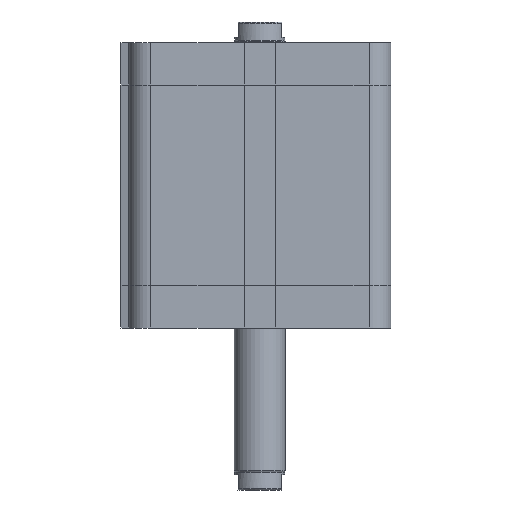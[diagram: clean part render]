
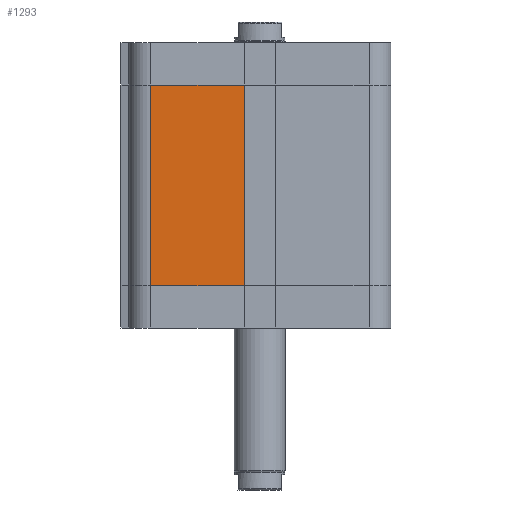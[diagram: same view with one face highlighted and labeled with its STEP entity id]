
A CAD part, left-side view. The second image highlights one B-rep face of the part: STEP entity #1293.
In plain terms, the highlighted planar face has unit normal (-1, 0, 0).
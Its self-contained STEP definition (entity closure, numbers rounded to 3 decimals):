
#1204=CARTESIAN_POINT('',(-51.0,42.5,16.5));
#1205=VERTEX_POINT('',#1204);
#1213=CARTESIAN_POINT('',(-51.0,42.5,94.5));
#1214=VERTEX_POINT('',#1213);
#1215=CARTESIAN_POINT('',(-51.0,42.5,16.5));
#1216=DIRECTION('',(0.0,0.0,1.0));
#1217=VECTOR('',#1216,78.0);
#1218=LINE('',#1215,#1217);
#1219=EDGE_CURVE('',#1205,#1214,#1218,.T.);
#1263=CARTESIAN_POINT('',(-51.,6.,0.0));
#1264=DIRECTION('',(-1.0,0.0,0.0));
#1265=DIRECTION('',(0.0,0.0,1.0));
#1266=AXIS2_PLACEMENT_3D('',#1263,#1264,#1265);
#1267=PLANE('',#1266);
#1268=CARTESIAN_POINT('',(-51.,6.,16.5));
#1269=VERTEX_POINT('',#1268);
#1270=CARTESIAN_POINT('',(-51.0,42.5,16.5));
#1271=DIRECTION('',(0.0,-1.0,0.0));
#1272=VECTOR('',#1271,36.5);
#1273=LINE('',#1270,#1272);
#1274=EDGE_CURVE('',#1205,#1269,#1273,.T.);
#1275=ORIENTED_EDGE('',*,*,#1274,.T.);
#1276=CARTESIAN_POINT('',(-51.,6.,94.5));
#1277=VERTEX_POINT('',#1276);
#1278=CARTESIAN_POINT('',(-51.,6.,16.5));
#1279=DIRECTION('',(0.0,0.0,1.0));
#1280=VECTOR('',#1279,78.0);
#1281=LINE('',#1278,#1280);
#1282=EDGE_CURVE('',#1269,#1277,#1281,.T.);
#1283=ORIENTED_EDGE('',*,*,#1282,.T.);
#1284=CARTESIAN_POINT('',(-51.0,42.5,94.5));
#1285=DIRECTION('',(0.0,-1.0,0.0));
#1286=VECTOR('',#1285,36.5);
#1287=LINE('',#1284,#1286);
#1288=EDGE_CURVE('',#1214,#1277,#1287,.T.);
#1289=ORIENTED_EDGE('',*,*,#1288,.F.);
#1290=ORIENTED_EDGE('',*,*,#1219,.F.);
#1291=EDGE_LOOP('',(#1275,#1283,#1289,#1290));
#1292=FACE_OUTER_BOUND('',#1291,.T.);
#1293=ADVANCED_FACE('',(#1292),#1267,.T.);
